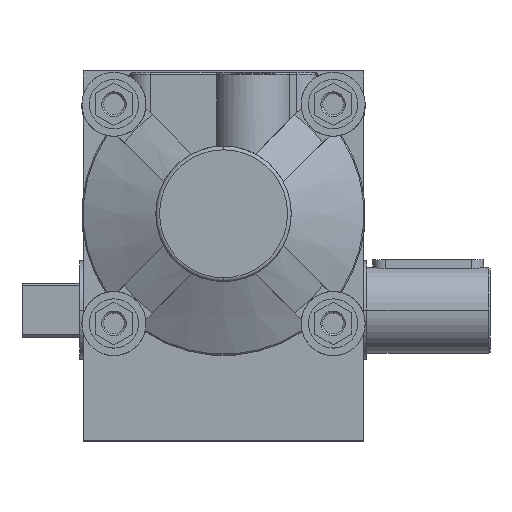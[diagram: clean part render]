
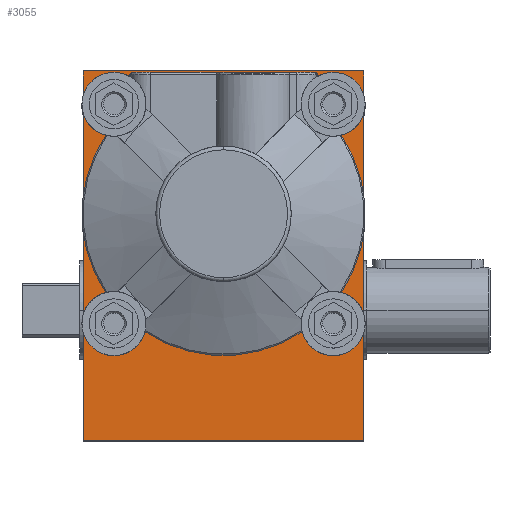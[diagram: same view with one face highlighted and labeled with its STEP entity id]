
A CAD part, top view. The second image highlights one B-rep face of the part: STEP entity #3055.
In plain terms, the highlighted planar face has unit normal (0, 0, 1).
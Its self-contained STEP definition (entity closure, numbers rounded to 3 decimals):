
#272=CARTESIAN_POINT('',(0.,0.,62.5));
#273=DIRECTION('',(0.,0.,1.));
#274=DIRECTION('',(0.,1.,0.));
#275=AXIS2_PLACEMENT_3D('',#272,#273,#274);
#277=CARTESIAN_POINT('',(0.,0.,62.5));
#278=DIRECTION('',(0.,0.,-1.));
#279=DIRECTION('',(0.,1.,0.));
#280=AXIS2_PLACEMENT_3D('',#277,#278,#279);
#282=DIRECTION('',(1.,0.,0.));
#283=VECTOR('',#282,114.);
#284=CARTESIAN_POINT('',(-57.,-91.5,62.5));
#285=LINE('25798',#284,#283);
#286=DIRECTION('',(0.,-1.,0.));
#287=VECTOR('',#286,150.);
#288=CARTESIAN_POINT('',(-57.,58.5,62.5));
#289=LINE('25801',#288,#287);
#290=DIRECTION('',(-1.,0.,0.));
#291=VECTOR('',#290,114.);
#292=CARTESIAN_POINT('',(57.,58.5,62.5));
#293=LINE('25800',#292,#291);
#294=DIRECTION('',(0.,1.,0.));
#295=VECTOR('',#294,150.);
#296=CARTESIAN_POINT('',(57.,-91.5,62.5));
#297=LINE('25799',#296,#295);
#953=CARTESIAN_POINT('',(44.5,44.5,62.5));
#954=DIRECTION('',(0.,0.,1.));
#955=DIRECTION('',(1.,0.,0.));
#956=AXIS2_PLACEMENT_3D('',#953,#954,#955);
#971=CARTESIAN_POINT('',(44.5,44.5,62.5));
#972=DIRECTION('',(0.,0.,1.));
#973=DIRECTION('',(-1.,0.,0.));
#974=AXIS2_PLACEMENT_3D('',#971,#972,#973);
#989=CARTESIAN_POINT('',(-44.5,44.5,62.5));
#990=DIRECTION('',(0.,0.,1.));
#991=DIRECTION('',(1.,0.,0.));
#992=AXIS2_PLACEMENT_3D('',#989,#990,#991);
#1007=CARTESIAN_POINT('',(-44.5,44.5,62.5));
#1008=DIRECTION('',(0.,0.,1.));
#1009=DIRECTION('',(-1.,0.,0.));
#1010=AXIS2_PLACEMENT_3D('',#1007,#1008,#1009);
#1025=CARTESIAN_POINT('',(-44.5,-44.5,62.5));
#1026=DIRECTION('',(0.,0.,1.));
#1027=DIRECTION('',(1.,0.,0.));
#1028=AXIS2_PLACEMENT_3D('',#1025,#1026,#1027);
#1043=CARTESIAN_POINT('',(-44.5,-44.5,62.5));
#1044=DIRECTION('',(0.,0.,1.));
#1045=DIRECTION('',(-1.,0.,0.));
#1046=AXIS2_PLACEMENT_3D('',#1043,#1044,#1045);
#1061=CARTESIAN_POINT('',(44.5,-44.5,62.5));
#1062=DIRECTION('',(0.,0.,1.));
#1063=DIRECTION('',(1.,0.,0.));
#1064=AXIS2_PLACEMENT_3D('',#1061,#1062,#1063);
#1079=CARTESIAN_POINT('',(44.5,-44.5,62.5));
#1080=DIRECTION('',(0.,0.,1.));
#1081=DIRECTION('',(-1.,0.,0.));
#1082=AXIS2_PLACEMENT_3D('',#1079,#1080,#1081);
#2298=CARTESIAN_POINT('',(-57.,-91.5,62.5));
#2299=CARTESIAN_POINT('',(57.,-91.5,62.5));
#2300=VERTEX_POINT('',#2298);
#2301=VERTEX_POINT('',#2299);
#2302=CARTESIAN_POINT('',(57.,58.5,62.5));
#2303=VERTEX_POINT('',#2302);
#2304=CARTESIAN_POINT('',(-57.,58.5,62.5));
#2305=VERTEX_POINT('',#2304);
#2614=CARTESIAN_POINT('',(48.95,44.5,62.5));
#2615=CARTESIAN_POINT('',(40.05,44.5,62.5));
#2616=VERTEX_POINT('',#2614);
#2617=VERTEX_POINT('',#2615);
#2622=CARTESIAN_POINT('',(-40.05,44.5,62.5));
#2623=CARTESIAN_POINT('',(-48.95,44.5,62.5));
#2624=VERTEX_POINT('',#2622);
#2625=VERTEX_POINT('',#2623);
#2630=CARTESIAN_POINT('',(-40.05,-44.5,62.5));
#2631=CARTESIAN_POINT('',(-48.95,-44.5,62.5));
#2632=VERTEX_POINT('',#2630);
#2633=VERTEX_POINT('',#2631);
#2638=CARTESIAN_POINT('',(48.95,-44.5,62.5));
#2639=CARTESIAN_POINT('',(40.05,-44.5,62.5));
#2640=VERTEX_POINT('',#2638);
#2641=VERTEX_POINT('',#2639);
#2659=CARTESIAN_POINT('',(0.,52.9,62.5));
#2661=VERTEX_POINT('',#2659);
#2675=CARTESIAN_POINT('',(0.,-52.9,62.5));
#2677=VERTEX_POINT('',#2675);
#3014=CARTESIAN_POINT('',(0.,0.,62.5));
#3015=DIRECTION('',(0.,0.,1.));
#3016=DIRECTION('',(0.,1.,0.));
#3017=AXIS2_PLACEMENT_3D('',#3014,#3015,#3016);
#3018=PLANE('25797',#3017);
#3019=ORIENTED_EDGE('25798',*,*,#2882,.F.);
#3020=ORIENTED_EDGE('25801',*,*,#2921,.F.);
#3021=ORIENTED_EDGE('25800',*,*,#2965,.F.);
#3022=ORIENTED_EDGE('25799',*,*,#2978,.F.);
#3023=EDGE_LOOP('25797',(#3019,#3020,#3021,#3022));
#3024=FACE_OUTER_BOUND('25797',#3023,.F.);
#3026=ORIENTED_EDGE('29380',*,*,#3025,.T.);
#3028=ORIENTED_EDGE('29338',*,*,#3027,.F.);
#3029=EDGE_LOOP('25797',(#3026,#3028));
#3030=FACE_BOUND('25797',#3029,.F.);
#3032=ORIENTED_EDGE('28058',*,*,#3031,.T.);
#3034=ORIENTED_EDGE('28060',*,*,#3033,.T.);
#3035=EDGE_LOOP('25797',(#3032,#3034));
#3036=FACE_BOUND('25797',#3035,.F.);
#3038=ORIENTED_EDGE('28062',*,*,#3037,.T.);
#3040=ORIENTED_EDGE('28064',*,*,#3039,.T.);
#3041=EDGE_LOOP('25797',(#3038,#3040));
#3042=FACE_BOUND('25797',#3041,.F.);
#3044=ORIENTED_EDGE('28066',*,*,#3043,.T.);
#3046=ORIENTED_EDGE('28068',*,*,#3045,.T.);
#3047=EDGE_LOOP('25797',(#3044,#3046));
#3048=FACE_BOUND('25797',#3047,.F.);
#3050=ORIENTED_EDGE('28070',*,*,#3049,.T.);
#3052=ORIENTED_EDGE('28072',*,*,#3051,.T.);
#3053=EDGE_LOOP('25797',(#3050,#3052));
#3054=FACE_BOUND('25797',#3053,.F.);
#3055=ADVANCED_FACE('25797',(#3024,#3030,#3036,#3042,#3048,#3054),#3018,.T.);
#276=CIRCLE('29380',#275,52.9);
#281=CIRCLE('29338',#280,52.9);
#957=CIRCLE('28058',#956,4.45);
#975=CIRCLE('28060',#974,4.45);
#993=CIRCLE('28062',#992,4.45);
#1011=CIRCLE('28064',#1010,4.45);
#1029=CIRCLE('28066',#1028,4.45);
#1047=CIRCLE('28068',#1046,4.45);
#1065=CIRCLE('28070',#1064,4.45);
#1083=CIRCLE('28072',#1082,4.45);
#2882=EDGE_CURVE('25798',#2300,#2301,#285,.T.);
#2921=EDGE_CURVE('25801',#2305,#2300,#289,.T.);
#2965=EDGE_CURVE('25800',#2303,#2305,#293,.T.);
#2978=EDGE_CURVE('25799',#2301,#2303,#297,.T.);
#3025=EDGE_CURVE('29380',#2661,#2677,#276,.T.);
#3027=EDGE_CURVE('29338',#2661,#2677,#281,.T.);
#3031=EDGE_CURVE('28058',#2616,#2617,#957,.T.);
#3033=EDGE_CURVE('28060',#2617,#2616,#975,.T.);
#3037=EDGE_CURVE('28062',#2624,#2625,#993,.T.);
#3039=EDGE_CURVE('28064',#2625,#2624,#1011,.T.);
#3043=EDGE_CURVE('28066',#2632,#2633,#1029,.T.);
#3045=EDGE_CURVE('28068',#2633,#2632,#1047,.T.);
#3049=EDGE_CURVE('28070',#2640,#2641,#1065,.T.);
#3051=EDGE_CURVE('28072',#2641,#2640,#1083,.T.);
